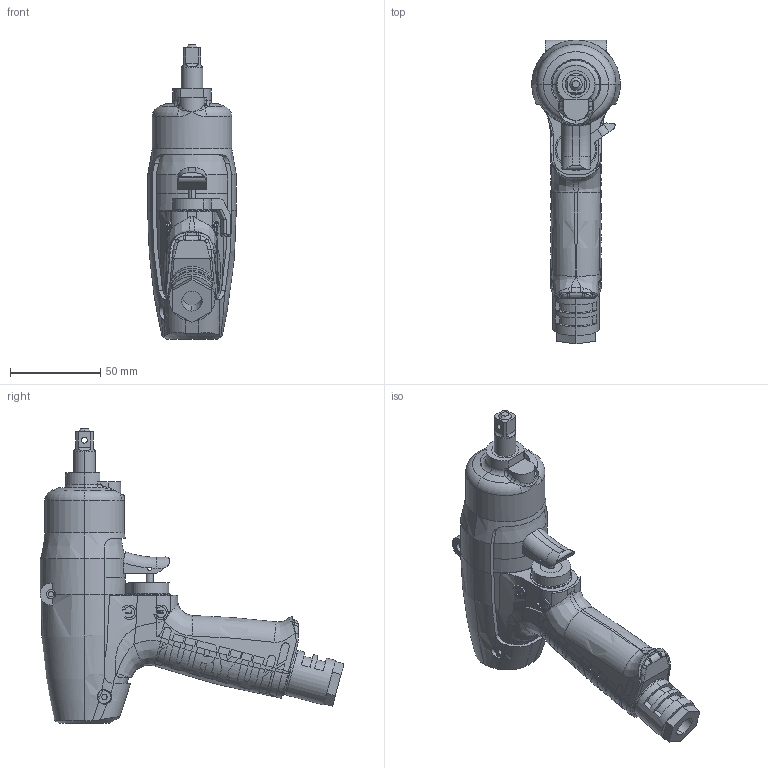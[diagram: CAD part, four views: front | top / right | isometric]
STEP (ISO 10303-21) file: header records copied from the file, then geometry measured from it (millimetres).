
FILE_DESCRIPTION (( 'STEP AP203' ), '1' );
FILE_NAME ('UAT50.STEP', '2015-07-23T01:53:41', ( '' ), ( '' ), 'SwSTEP 2.0', 'SolidWorks 2014', '' );
FILE_SCHEMA (( 'CONFIG_CONTROL_DESIGN' ));
Length unit declared in the file: millimetre
Products named in the file (8): 1471072_ULT50; 1458407_ULT50; 1478422_UAT50; UAT50; 1453190_ULT50; 1454390_ULT50; 1450250_UAT50; 4802128_ULT50
Assembly tree (7 placements, depth 2):
  UAT50
    1453190_ULT50
    1454390_ULT50
    1450250_UAT50
    4802128_ULT50
    1471072_ULT50
    1458407_ULT50
    1478422_UAT50
Bounding box: 49 x 167.83 x 162.7 mm (x, y, z)
Volume: 311574.8 mm3; surface area: 89698.9 mm2
Topology: 7 solids, 7 shells, 1236 faces, 3459 edges, 2249 vertices
Faces by surface type: plane 712, cylinder 225, bspline 218, torus 55, cone 26
Entity records: 59557 total; most frequent: CARTESIAN_POINT 30439, ORIENTED_EDGE 6898, DIRECTION 4427, EDGE_CURVE 3449, VERTEX_POINT 2249, AXIS2_PLACEMENT_3D 1489, B_SPLINE_CURVE_WITH_KNOTS 1469, VECTOR 1449
